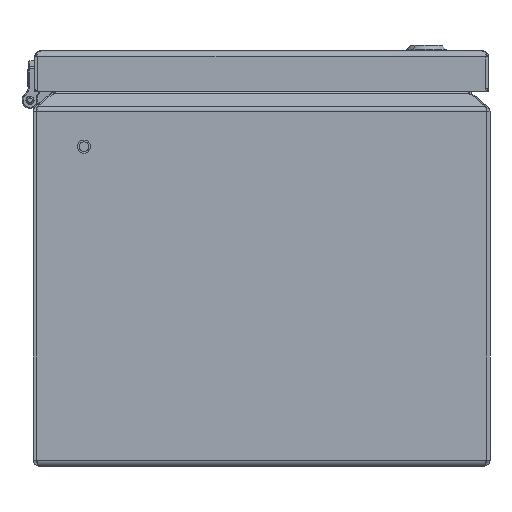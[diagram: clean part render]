
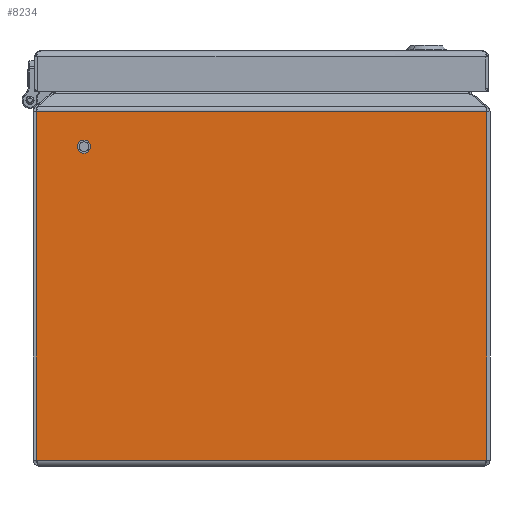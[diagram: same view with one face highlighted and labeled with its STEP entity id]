
A CAD part, front view. The second image highlights one B-rep face of the part: STEP entity #8234.
In plain terms, the highlighted planar face has unit normal (0, -1, 0).
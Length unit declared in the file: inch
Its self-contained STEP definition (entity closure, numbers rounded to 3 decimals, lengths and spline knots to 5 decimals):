
#457=DIRECTION('',(1.,0.,0.));
#458=VECTOR('',#457,8.88);
#459=CARTESIAN_POINT('',(-4.44,-9.,0.12));
#460=LINE('',#459,#458);
#3111=DIRECTION('',(1.,0.,0.));
#3112=VECTOR('',#3111,8.88);
#3113=CARTESIAN_POINT('',(-4.44,-9.,6.99304));
#3114=LINE('',#3113,#3112);
#3140=DIRECTION('',(0.,0.,1.));
#3141=VECTOR('',#3140,6.87304);
#3142=CARTESIAN_POINT('',(-4.44,-9.,0.12));
#3143=LINE('',#3142,#3141);
#3147=CARTESIAN_POINT('',(-3.5,-9.,6.299));
#3148=DIRECTION('',(0.,-1.,0.));
#3149=DIRECTION('',(0.,0.,-1.));
#3150=AXIS2_PLACEMENT_3D('',#3147,#3148,#3149);
#3155=CARTESIAN_POINT('',(-3.5,-9.,6.299));
#3156=DIRECTION('',(0.,-1.,0.));
#3157=DIRECTION('',(0.,0.,1.));
#3158=AXIS2_PLACEMENT_3D('',#3155,#3156,#3157);
#3163=DIRECTION('',(0.,0.,1.));
#3164=VECTOR('',#3163,6.87304);
#3165=CARTESIAN_POINT('',(4.44,-9.,0.12));
#3166=LINE('',#3165,#3164);
#3961=CARTESIAN_POINT('',(4.44,-9.,0.12));
#3962=CARTESIAN_POINT('',(4.44,-9.,6.99304));
#3963=VERTEX_POINT('',#3961);
#3964=VERTEX_POINT('',#3962);
#3985=CARTESIAN_POINT('',(-4.44,-9.,0.12));
#3986=CARTESIAN_POINT('',(-4.44,-9.,6.99304));
#3987=VERTEX_POINT('',#3985);
#3988=VERTEX_POINT('',#3986);
#4461=CARTESIAN_POINT('',(-3.5,-9.,6.2025));
#4462=CARTESIAN_POINT('',(-3.5,-9.,6.3955));
#4463=VERTEX_POINT('',#4461);
#4464=VERTEX_POINT('',#4462);
#8215=CARTESIAN_POINT('',(-4.5,-9.,0.));
#8216=DIRECTION('',(0.,-1.,0.));
#8217=DIRECTION('',(1.,0.,0.));
#8218=AXIS2_PLACEMENT_3D('',#8215,#8216,#8217);
#8219=PLANE('',#8218);
#8220=ORIENTED_EDGE('',*,*,#8205,.T.);
#8222=ORIENTED_EDGE('',*,*,#8221,.F.);
#8223=ORIENTED_EDGE('',*,*,#5118,.F.);
#8225=ORIENTED_EDGE('',*,*,#8224,.T.);
#8226=EDGE_LOOP('',(#8220,#8222,#8223,#8225));
#8227=FACE_OUTER_BOUND('',#8226,.F.);
#8229=ORIENTED_EDGE('',*,*,#8228,.T.);
#8231=ORIENTED_EDGE('',*,*,#8230,.T.);
#8232=EDGE_LOOP('',(#8229,#8231));
#8233=FACE_BOUND('',#8232,.F.);
#3151=CIRCLE('',#3150,0.0965);
#3159=CIRCLE('',#3158,0.0965);
#5118=EDGE_CURVE('',#3987,#3963,#460,.T.);
#8205=EDGE_CURVE('',#3988,#3964,#3114,.T.);
#8221=EDGE_CURVE('',#3963,#3964,#3166,.T.);
#8224=EDGE_CURVE('',#3987,#3988,#3143,.T.);
#8228=EDGE_CURVE('',#4463,#4464,#3151,.T.);
#8230=EDGE_CURVE('',#4464,#4463,#3159,.T.);
#8234=ADVANCED_FACE('',(#8227,#8233),#8219,.T.);
